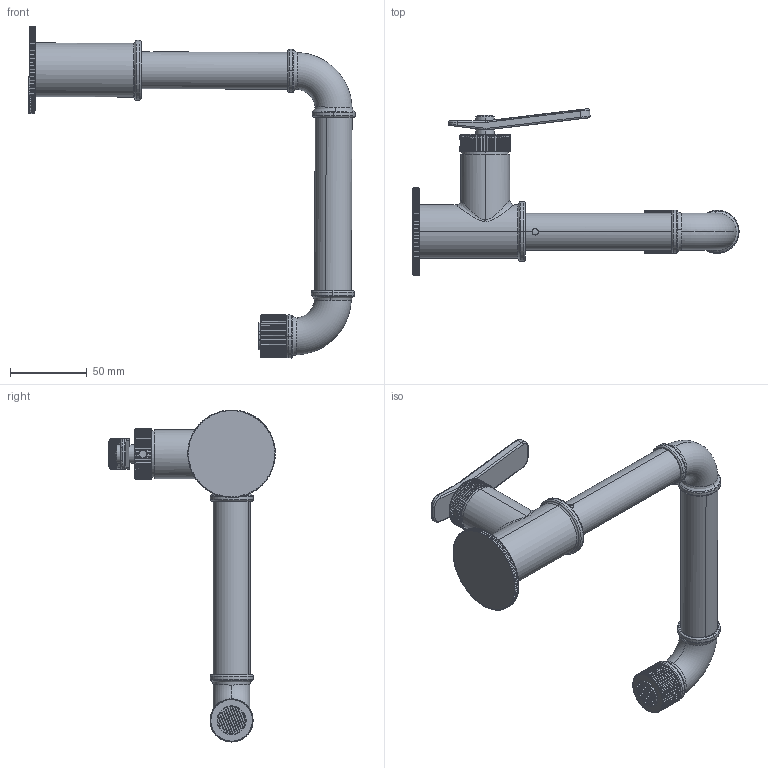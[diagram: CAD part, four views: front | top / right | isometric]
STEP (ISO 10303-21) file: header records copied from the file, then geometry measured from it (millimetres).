
FILE_DESCRIPTION (( 'STEP AP214' ), '1' );
FILE_NAME ('79301110 x architetti.STEP', '2024-11-22T12:45:16', ( '' ), ( '' ), 'SwSTEP 2.0', 'SolidWorks 2020', '' );
FILE_SCHEMA (( 'AUTOMOTIVE_DESIGN' ));
Length unit declared in the file: millimetre
Products named in the file (3): F0007799; 79301110 x architetti; 793011 x architetti
Assembly tree (2 placements, depth 2):
  79301110 x architetti
    793011 x architetti
    F0007799
Bounding box: 212.5 x 108.58 x 216.21 mm (x, y, z)
Volume: 1838.7 mm3; surface area: 56329.8 mm2
Topology: 7 solids, 20 shells, 4015 faces, 9980 edges, 6573 vertices
Faces by surface type: plane 3065, cylinder 633, torus 192, bspline 107, cone 14, sphere 4
Entity records: 143930 total; most frequent: CARTESIAN_POINT 39419, ORIENTED_EDGE 19856, DIRECTION 17934, EDGE_CURVE 9975, VERTEX_POINT 6573, VECTOR 6218, LINE 6218, AXIS2_PLACEMENT_3D 5858
